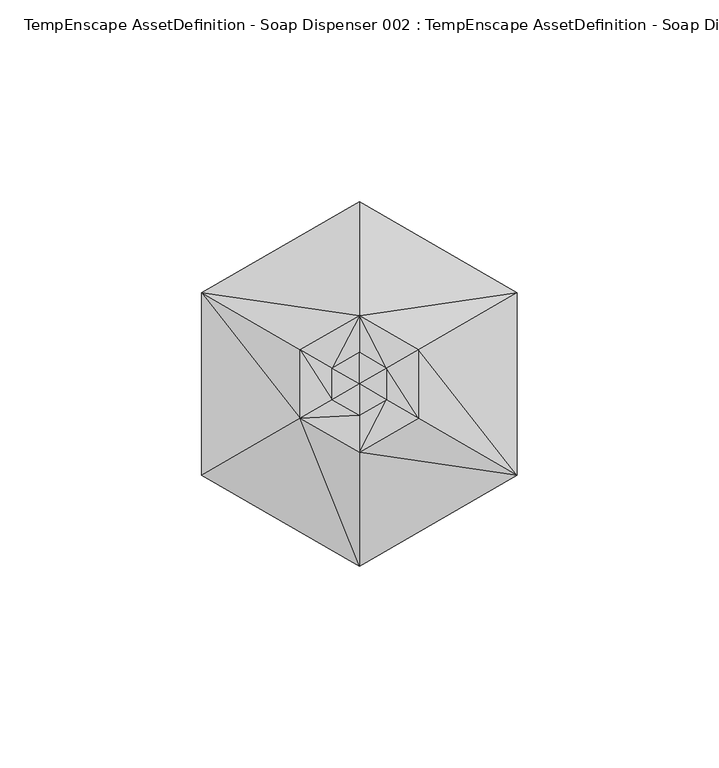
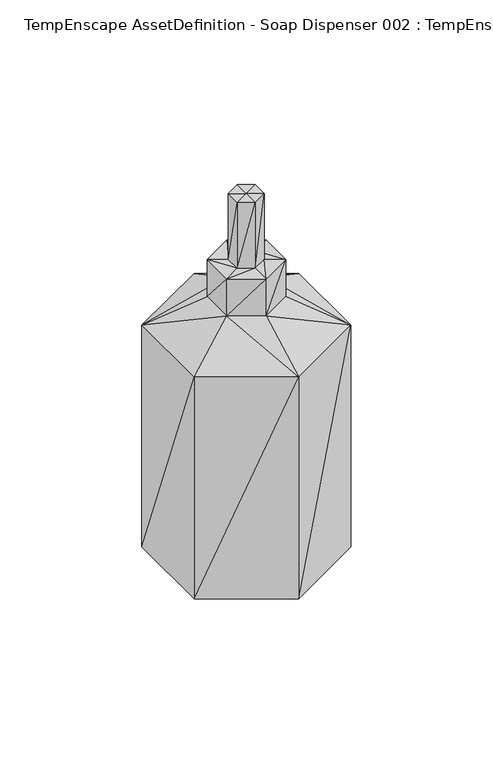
"""IFC4 building model written with IfcOpenShell, lengths in millimetres: geographic element geometry, TempEnscape AssetDefinition - Soap Dispenser 002 : TempEnscape AssetDefinition - Soap Dispenser 002."""

from ifc_helpers import new_model, si_unit, origin, place, context, project, spatial, faceted_brep, source, transform, mapped, element, save


def tempenscape_assetdefinition_soap_dispenser_002_tempenscape_9b9ddfe8(model_context):
    return source(origin(), model_context, "Body", "Brep", [
        faceted_brep([(17.5586715, 10.1375086, 0.0), (39.056737, 22.5494076, 14.3552804), (17.5586715, -10.1375086, 0.0), (39.056737, -22.5494076, 14.3552804), (0.0, -20.2750172, 0.0), (0.0, 0.0, 0.0), (0.0, 20.2750172, 0.0), (-17.5586715, -10.1375086, 0.0), (-17.5586715, 10.1375086, 0.0), (0.0, -45.0988375, 14.3552804), (39.056737, -22.5494076, 131.2005669), (39.056737, 22.5494076, 131.2005669), (0.0, -45.0988375, 131.2005669), (-39.056737, -22.549428, 14.3552804), (-39.056737, 22.5494076, 14.3552804), (-39.056737, -22.549428, 131.2005669), (0.0, -16.9530772, 146.2235451), (-14.6817891, -8.4765386, 146.2235451), (-39.056737, 22.5494076, 131.2005669), (0.0, 45.0988375, 14.3552804), (-14.6817891, 8.4765386, 146.2235451), (0.0, 16.9530772, 146.2235451), (0.0, 45.0988375, 131.2005669), (14.6818096, 8.4765386, 146.2235451), (14.6818096, -8.4765386, 146.2235451), (0.0, 16.9530772, 165.9203321), (14.6818096, 8.4765386, 165.9203321), (14.6818096, -8.4765386, 165.9203321), (6.7433286, 3.8932695, 165.9203321), (6.7433286, -3.8932695, 165.9203321), (0.0, -16.9530772, 165.9203321), (0.0, -7.7865189, 165.9203321), (-14.6817891, -8.4765386, 165.9203321), (6.7433286, -3.8932695, 200.6400675), (6.7433286, 3.8932695, 200.6400675), (0.0, -7.7865189, 200.6400675), (-6.7433286, -3.8932695, 165.9203321), (-14.6817891, 8.4765386, 165.9203321), (-6.7433286, -3.8932695, 200.6400675), (-6.7433286, 3.8932695, 165.9203321), (0.0, 0.0, 200.6400973), (0.0, 7.7865189, 200.6400675), (-6.7433286, 3.8932695, 200.6400675), (0.0, 7.7865189, 165.9203321)], [[[0, 1, 2]], [[2, 3, 4]], [[5, 0, 2]], [[5, 2, 4]], [[1, 3, 2]], [[5, 6, 0]], [[1, 0, 6]], [[5, 4, 7]], [[5, 8, 6]], [[5, 7, 8]], [[4, 9, 7]], [[3, 9, 4]], [[3, 10, 9]], [[1, 11, 3]], [[11, 10, 3]], [[9, 12, 13]], [[9, 13, 7]], [[10, 12, 9]], [[7, 13, 8]], [[8, 14, 6]], [[13, 14, 8]], [[13, 15, 14]], [[12, 15, 13]], [[16, 17, 12]], [[17, 15, 12]], [[16, 12, 10]], [[15, 17, 18]], [[15, 18, 14]], [[14, 18, 19]], [[14, 19, 6]], [[20, 21, 18]], [[18, 22, 19]], [[21, 22, 18]], [[17, 20, 18]], [[19, 1, 6]], [[19, 22, 1]], [[22, 21, 11]], [[22, 11, 1]], [[11, 23, 10]], [[21, 23, 11]], [[24, 16, 10]], [[23, 24, 10]], [[21, 25, 23]], [[23, 26, 24]], [[25, 26, 23]], [[24, 27, 16]], [[26, 27, 24]], [[26, 28, 27]], [[28, 26, 25]], [[27, 29, 30]], [[27, 30, 16]], [[28, 29, 27]], [[16, 30, 17]], [[30, 31, 32]], [[30, 32, 17]], [[29, 31, 30]], [[29, 33, 31]], [[28, 34, 29]], [[34, 33, 29]], [[31, 35, 36]], [[31, 36, 32]], [[33, 35, 31]], [[17, 32, 20]], [[32, 36, 37]], [[32, 37, 20]], [[36, 38, 39]], [[36, 39, 37]], [[35, 38, 36]], [[40, 38, 35]], [[40, 35, 33]], [[40, 33, 34]], [[40, 34, 41]], [[41, 34, 28]], [[40, 41, 42]], [[40, 42, 38]], [[38, 42, 39]], [[37, 39, 25]], [[39, 42, 43]], [[39, 43, 25]], [[42, 41, 43]], [[43, 41, 28]], [[43, 28, 25]], [[37, 25, 21]], [[20, 37, 21]]]),
    ])


if __name__ == "__main__":
    model = new_model("IFC4")
    model_context = context("Model", 3, world=origin())
    ifc_project = project(units=[si_unit("LENGTHUNIT", "METRE", prefix="MILLI")], contexts=[model_context])
    site = spatial("IfcSite", under=ifc_project)
    building = spatial("IfcBuilding", under=site)
    placement = place(None, origin())
    tempenscape_assetdefinition_soap_dispenser_002_tempenscape_shape = tempenscape_assetdefinition_soap_dispenser_002_tempenscape_9b9ddfe8(model_context)
    element("IfcGeographicElement", 1, ObjectType="TempEnscape AssetDefinition - Soap Dispenser 002 : TempEnscape AssetDefinition - Soap Dispenser 002", at=placement, inside=building, context=model_context, shape_type="MappedRepresentation", body=[
        mapped(tempenscape_assetdefinition_soap_dispenser_002_tempenscape_shape, transform((0.0, 0.0, 0.0), x_axis=(1.0, 0.0, 0.0), y_axis=(0.0, 1.0, 0.0), z_axis=(0.0, 0.0, 1.0))),
    ])
    save(model, "model.ifc")
